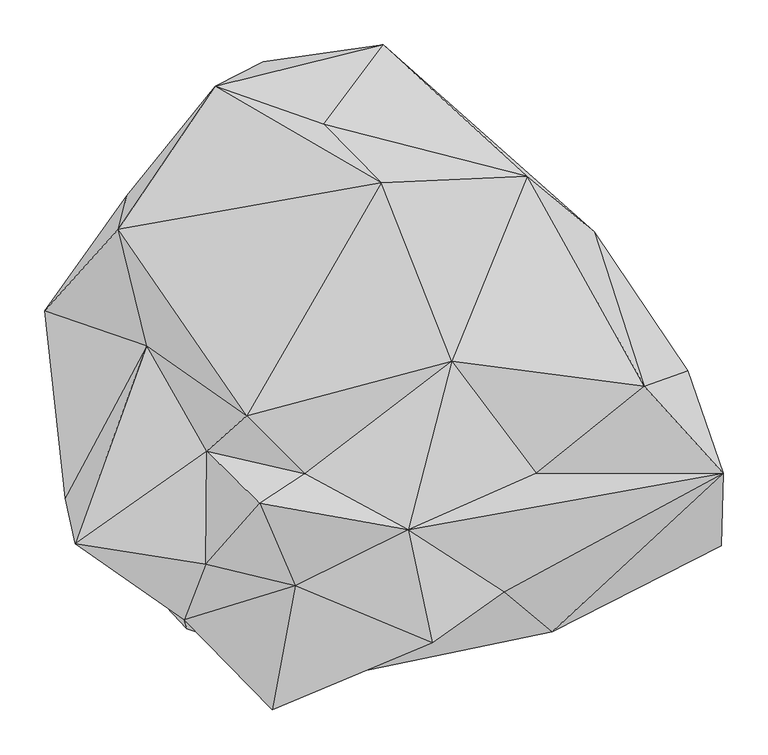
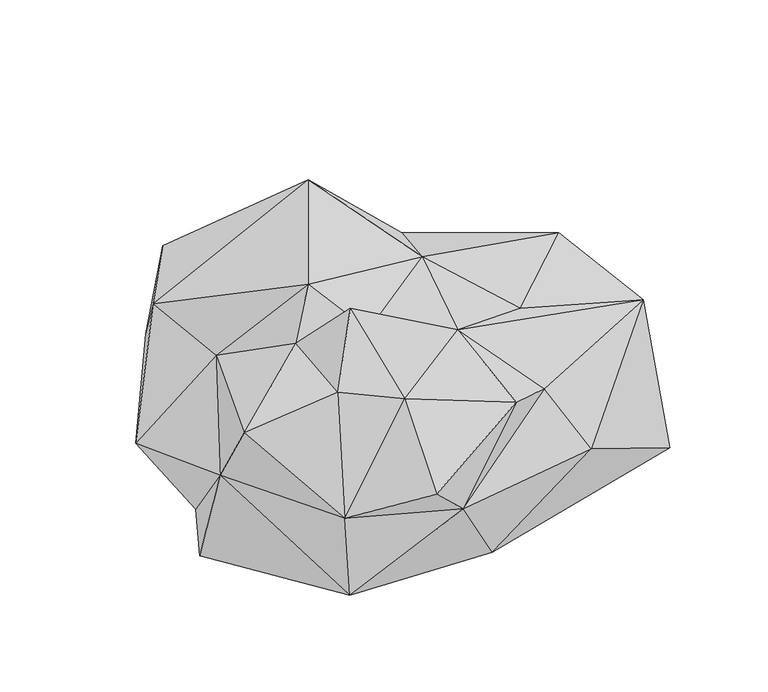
"""IFC4 building model written with IfcOpenShell, lengths in millimetres: geographic element geometry, Enscape AssetDefinition - Bush 012 English Laurel : Enscape AssetDefinition - Bush 012 English Laurel 7."""

from ifc_helpers import new_model, si_unit, origin, place, context, project, spatial, triangles, source, transform, mapped, element, save


def geographic_element_f610efd1(model_context):
    return source(origin(), model_context, "Body", "Tessellation", [
        triangles([(-67.2983586, -75.1989892, 323.7859777), (17.656318, 248.8394804, 367.2504395), (-131.6360875, -10.6805016, 389.554129), (310.6319841, 22.2462915, 306.808671), (180.5621073, 256.2160106, 211.095091), (190.2355539, -74.5747903, 272.4342612), (96.1089047, 50.0937628, 322.1323723), (-242.9918723, 67.227578, 254.3150547), (-117.1485543, -107.6380247, 400.0000031), (-176.1685165, -50.1074702, 323.6702508), (-177.2846003, -175.5914987, 311.9584657), (-322.8232458, -152.9942225, 277.068862), (-333.7080829, -101.9641523, 174.0144329), (-274.5080263, 197.1093713, 278.9076669), (-201.1755475, -237.4856858, 132.6603709), (-338.5801692, -50.5831134, 0.0), (-356.3197114, 106.5362842, 112.3386281), (-156.9169663, 231.4550946, 0.0), (-283.7615858, 55.8415906, 0.0), (-198.2687845, -247.5811997, 0.0), (37.494768, -256.2539443, 0.0), (154.6812743, -206.4738796, 221.0449379), (-38.1776206, -302.0982209, 132.173255), (208.3349942, -250.8606325, 122.181968), (398.2380103, -74.2187029, 215.1345247), (74.7478993, -262.9728111, 259.5132657), (-77.8376362, -199.7036897, 280.6626288), (-103.2463415, -337.8437679, 202.1067407), (47.7633909, -137.0450325, 322.0743816), (348.0757379, -32.6599637, 0.0), (396.4537442, -155.2860157, 0.0), (358.7967041, 39.8924097, 143.5531835), (254.7352325, 194.2217387, 89.5790798), (229.4186455, 122.6557036, 0.0), (-31.1740715, 293.6549862, 0.0), (-113.5841462, 383.6545618, 0.0), (53.5839023, 327.115135, 39.445462), (20.0383345, 402.1412968, 173.3918328), (-166.5409791, 356.2600857, 248.543968), (-46.0208737, 314.1065177, 297.6533069), (-216.0574153, 265.842585, 91.8351648), (-281.7978248, 136.1265929, 60.9929567), (-265.5171144, 234.4275149, 199.6211184)], [[2, 14, 3], [41, 42, 43], [41, 18, 42], [36, 35, 18], [36, 18, 41], [36, 41, 39], [41, 43, 39], [39, 43, 14], [2, 39, 14], [40, 39, 2], [5, 40, 2], [5, 38, 40], [36, 39, 38], [39, 40, 38], [38, 37, 36], [37, 35, 36], [21, 18, 34], [18, 35, 34], [34, 35, 37], [33, 34, 37], [33, 37, 38], [33, 38, 5], [33, 5, 4], [32, 33, 4], [34, 33, 32], [34, 30, 21], [30, 34, 32], [31, 21, 30], [31, 30, 25], [25, 4, 6], [30, 32, 25], [4, 25, 32], [29, 25, 6], [15, 28, 27], [28, 26, 27], [27, 26, 29], [22, 25, 29], [26, 22, 29], [24, 25, 22], [31, 25, 24], [24, 21, 31], [15, 23, 28], [28, 23, 26], [26, 23, 22], [23, 24, 22], [21, 24, 23], [20, 18, 21], [21, 23, 20], [20, 23, 15], [19, 18, 20], [20, 16, 19], [42, 18, 19], [43, 42, 17], [42, 19, 17], [17, 14, 43], [19, 13, 17], [19, 16, 13], [13, 16, 20], [13, 20, 15], [3, 14, 8], [14, 17, 8], [17, 13, 8], [13, 15, 12], [13, 12, 8], [15, 11, 12], [15, 27, 11], [11, 27, 9], [9, 27, 29], [8, 10, 3], [10, 11, 9], [10, 12, 11], [8, 12, 10], [1, 3, 10], [9, 29, 1], [10, 9, 1], [29, 7, 1], [6, 7, 29], [6, 4, 7], [7, 5, 2], [4, 5, 7], [7, 2, 3], [7, 3, 1]]),
    ])


if __name__ == "__main__":
    model = new_model("IFC4")
    model_context = context("Model", 3, world=origin())
    ifc_project = project(units=[si_unit("LENGTHUNIT", "METRE", prefix="MILLI")], contexts=[model_context])
    site = spatial("IfcSite", under=ifc_project)
    building = spatial("IfcBuilding", under=site)
    placement = place(None, origin())
    geographic_element_shape = geographic_element_f610efd1(model_context)
    element("IfcGeographicElement", 1, ObjectType="Enscape AssetDefinition - Bush 012 English Laurel : Enscape AssetDefinition - Bush 012 English Laurel 7", at=placement, inside=building, context=model_context, shape_type="MappedRepresentation", body=[
        mapped(geographic_element_shape, transform((0.0, 0.0, 0.0), x_axis=(1.0, 0.0, 0.0), y_axis=(0.0, 1.0, 0.0), z_axis=(0.0, 0.0, 1.0))),
    ])
    save(model, "model.ifc")
